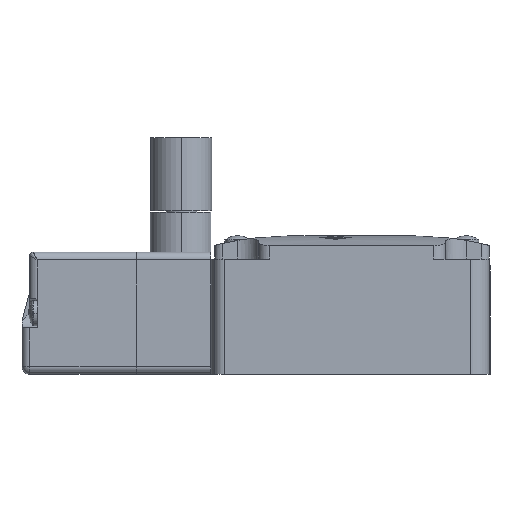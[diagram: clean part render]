
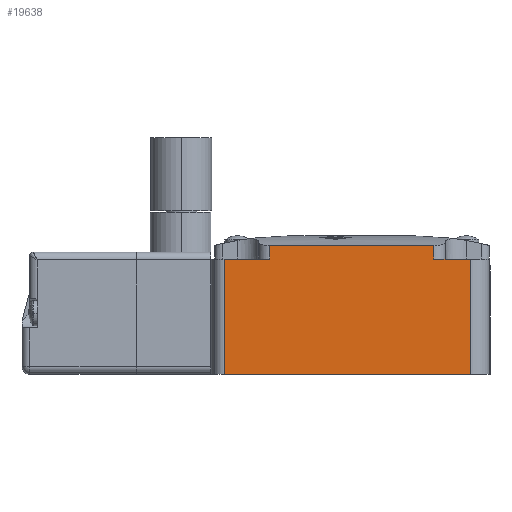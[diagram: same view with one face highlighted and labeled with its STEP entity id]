
A CAD part, left-side view. The second image highlights one B-rep face of the part: STEP entity #19638.
In plain terms, the highlighted planar face has unit normal (-1, 0, 0) as drawn and (1, 0, 0) by its records, which use the part's own axes.
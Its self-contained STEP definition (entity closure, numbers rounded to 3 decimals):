
#481 = EDGE_CURVE ( 'NONE', #13293, #17625, #15560, .T. ) ;
#550 = ORIENTED_EDGE ( 'NONE', *, *, #10914, .F. ) ;
#687 = VECTOR ( 'NONE', #2673, 1000. ) ;
#802 = LINE ( 'NONE', #14775, #16540 ) ;
#952 = CARTESIAN_POINT ( 'NONE',  ( 20., -31., -15.2 ) ) ;
#1116 = CARTESIAN_POINT ( 'NONE',  ( 20., -31., -21.3 ) ) ;
#1319 = ORIENTED_EDGE ( 'NONE', *, *, #18152, .T. ) ;
#1802 = LINE ( 'NONE', #10342, #9087 ) ;
#2416 = VERTEX_POINT ( 'NONE', #17013 ) ;
#2548 = LINE ( 'NONE', #3396, #6708 ) ;
#2623 = ORIENTED_EDGE ( 'NONE', *, *, #14348, .F. ) ;
#2673 = DIRECTION ( 'NONE',  ( 0., 1., 0. ) ) ;
#3073 = EDGE_CURVE ( 'NONE', #2416, #12544, #6791, .T. ) ;
#3396 = CARTESIAN_POINT ( 'NONE',  ( 20., 21.5, -15.2 ) ) ;
#3421 = LINE ( 'NONE', #1116, #10647 ) ;
#3468 = VECTOR ( 'NONE', #5886, 1000. ) ;
#3730 = CARTESIAN_POINT ( 'NONE',  ( 20., -21.5, -15.2 ) ) ;
#4459 = CARTESIAN_POINT ( 'NONE',  ( 20., 21.5, -15.2 ) ) ;
#4481 = ORIENTED_EDGE ( 'NONE', *, *, #14773, .T. ) ;
#4905 = LINE ( 'NONE', #5837, #687 ) ;
#5341 = ORIENTED_EDGE ( 'NONE', *, *, #6941, .F. ) ;
#5365 = FACE_OUTER_BOUND ( 'NONE', #13204, .T. ) ;
#5796 = DIRECTION ( 'NONE',  ( 0., 0., 1. ) ) ;
#5837 = CARTESIAN_POINT ( 'NONE',  ( 20., -31., 15. ) ) ;
#5886 = DIRECTION ( 'NONE',  ( 0., -1., 0. ) ) ;
#5963 = CARTESIAN_POINT ( 'NONE',  ( 20., 37., -15.2 ) ) ;
#6675 = DIRECTION ( 'NONE',  ( 1., 0., 0. ) ) ;
#6708 = VECTOR ( 'NONE', #12555, 1000. ) ;
#6791 = LINE ( 'NONE', #17491, #14347 ) ;
#6941 = EDGE_CURVE ( 'NONE', #7982, #9409, #3421, .T. ) ;
#7982 = VERTEX_POINT ( 'NONE', #952 ) ;
#8142 = CARTESIAN_POINT ( 'NONE',  ( 20., -31., -21.3 ) ) ;
#8185 = CARTESIAN_POINT ( 'NONE',  ( 20., -31., 15. ) ) ;
#8908 = AXIS2_PLACEMENT_3D ( 'NONE', #8142, #6675, #17151 ) ;
#9087 = VECTOR ( 'NONE', #11851, 1000. ) ;
#9409 = VERTEX_POINT ( 'NONE', #8185 ) ;
#9469 = LINE ( 'NONE', #13738, #16913 ) ;
#10342 = CARTESIAN_POINT ( 'NONE',  ( 20., -21.5, -15.2 ) ) ;
#10647 = VECTOR ( 'NONE', #5796, 1000. ) ;
#10914 = EDGE_CURVE ( 'NONE', #16898, #7982, #802, .T. ) ;
#11044 = ORIENTED_EDGE ( 'NONE', *, *, #481, .F. ) ;
#11851 = DIRECTION ( 'NONE',  ( 0., 0., -1. ) ) ;
#12544 = VERTEX_POINT ( 'NONE', #17371 ) ;
#12555 = DIRECTION ( 'NONE',  ( 0., 0., -1. ) ) ;
#13204 = EDGE_LOOP ( 'NONE', ( #18164, #2623, #11044, #1319, #16877, #5341, #550, #4481 ) ) ;
#13293 = VERTEX_POINT ( 'NONE', #15259 ) ;
#13337 = VERTEX_POINT ( 'NONE', #15392 ) ;
#13738 = CARTESIAN_POINT ( 'NONE',  ( 20., 33.325, -21.3 ) ) ;
#14347 = VECTOR ( 'NONE', #17547, 1000. ) ;
#14348 = EDGE_CURVE ( 'NONE', #17625, #12544, #2548, .T. ) ;
#14773 = EDGE_CURVE ( 'NONE', #16898, #2416, #1802, .T. ) ;
#14775 = CARTESIAN_POINT ( 'NONE',  ( 20., -21.5, -15.2 ) ) ;
#15227 = DIRECTION ( 'NONE',  ( 0., 0., 1. ) ) ;
#15259 = CARTESIAN_POINT ( 'NONE',  ( 20., 33.325, -15.2 ) ) ;
#15392 = CARTESIAN_POINT ( 'NONE',  ( 20., 33.325, 15. ) ) ;
#15560 = LINE ( 'NONE', #5963, #3468 ) ;
#15669 = PLANE ( 'NONE',  #8908 ) ;
#16540 = VECTOR ( 'NONE', #19246, 1000. ) ;
#16877 = ORIENTED_EDGE ( 'NONE', *, *, #18935, .F. ) ;
#16898 = VERTEX_POINT ( 'NONE', #3730 ) ;
#16913 = VECTOR ( 'NONE', #15227, 1000. ) ;
#17013 = CARTESIAN_POINT ( 'NONE',  ( 20., -21.5, -18.76 ) ) ;
#17151 = DIRECTION ( 'NONE',  ( 0., 1., 0. ) ) ;
#17371 = CARTESIAN_POINT ( 'NONE',  ( 20., 21.5, -18.76 ) ) ;
#17491 = CARTESIAN_POINT ( 'NONE',  ( 20., -36.2, -18.76 ) ) ;
#17547 = DIRECTION ( 'NONE',  ( 0., 1., 0. ) ) ;
#17625 = VERTEX_POINT ( 'NONE', #4459 ) ;
#18152 = EDGE_CURVE ( 'NONE', #13293, #13337, #9469, .T. ) ;
#18164 = ORIENTED_EDGE ( 'NONE', *, *, #3073, .T. ) ;
#18935 = EDGE_CURVE ( 'NONE', #9409, #13337, #4905, .T. ) ;
#19246 = DIRECTION ( 'NONE',  ( 0., -1., 0. ) ) ;
#19638 = ADVANCED_FACE ( 'NONE', ( #5365 ), #15669, .T. ) ;
